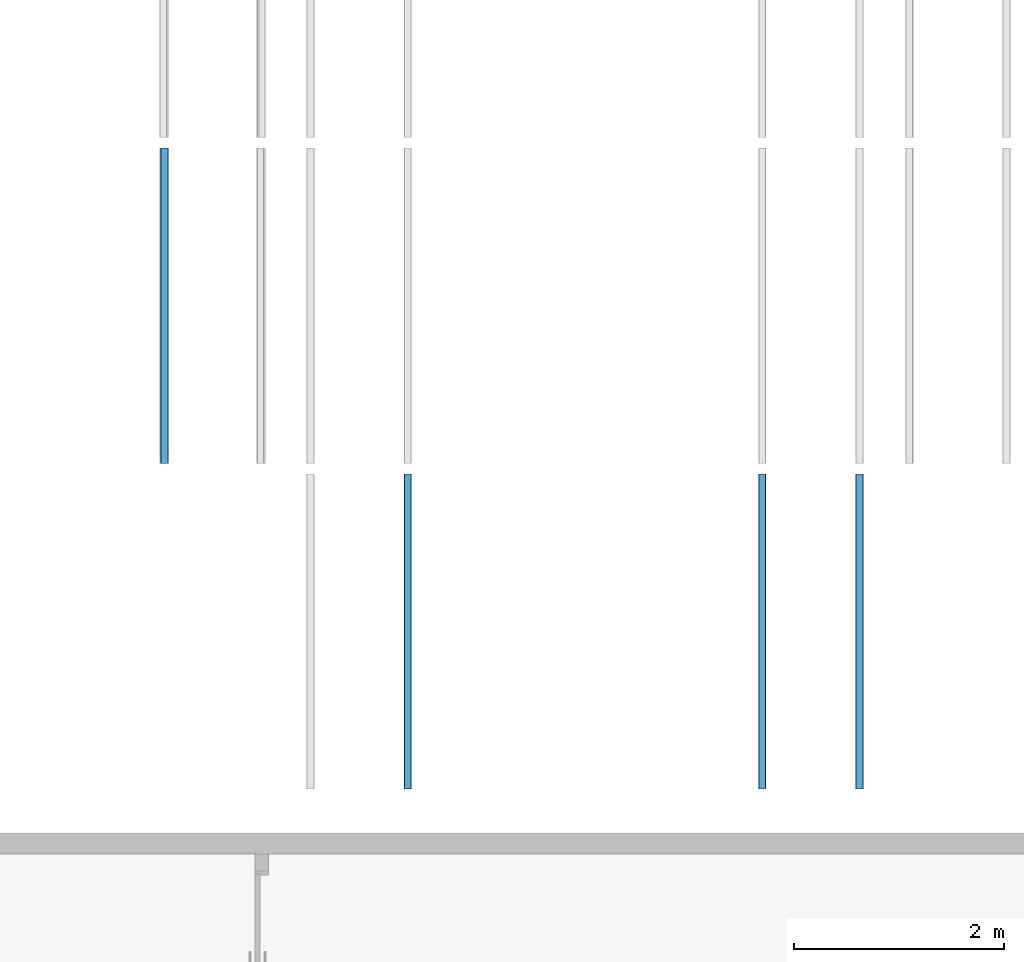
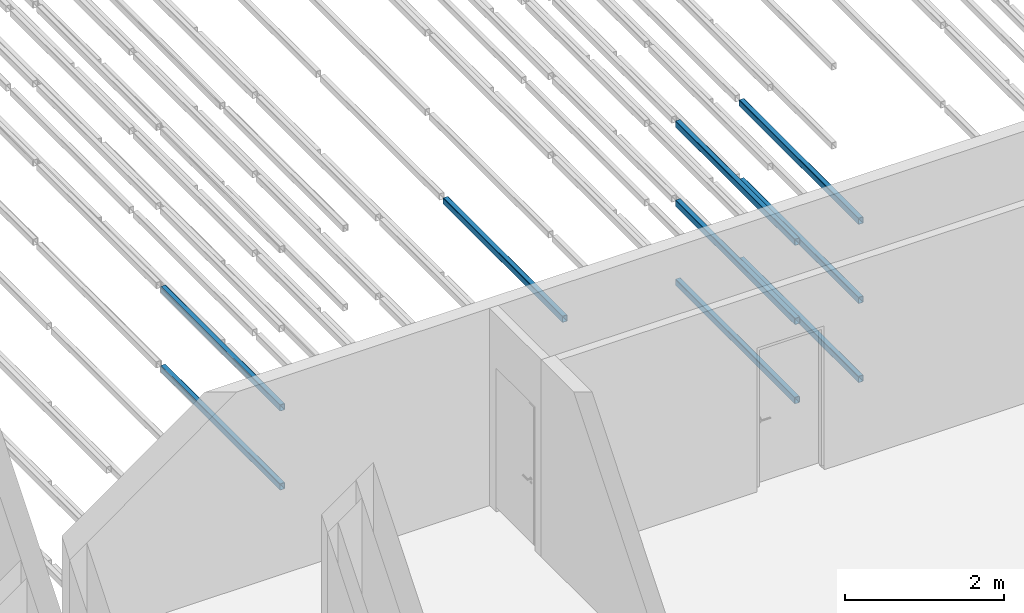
# One storey, part 19 of 290: 9 beams.
"""IFC2X3 building model written with IfcOpenShell, lengths in metres."""

from ifc_helpers import new_model, entity, si_unit, converted_unit, derived_unit, direction, frame, frame_2d, origin, place, context, subcontext, project, spatial, polyline, circle_curve, parameter, trimmed, segment, composite_curve, outline, extrude, material, type_object, element, save


model = new_model("IFC2X3")

# Units and contexts
model_context = context("Model", 3, precision=1e-05, world=origin(), true_north=direction((6.12303176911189e-17, 1.0)))
body_context = subcontext(model_context, "Body", "Model", "MODEL_VIEW")
ifc_project = project(units=[si_unit("LENGTHUNIT", "METRE"), si_unit("AREAUNIT", "SQUARE_METRE"), si_unit("VOLUMEUNIT", "CUBIC_METRE"), converted_unit("PLANEANGLEUNIT", "DEGREE", entity("IfcRatioMeasure", 0.0174532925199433), si_unit("PLANEANGLEUNIT", "RADIAN"), dimensions=[0, 0, 0, 0, 0, 0, 0]), si_unit("MASSUNIT", "GRAM", prefix="KILO"), derived_unit("MASSDENSITYUNIT", [(si_unit("MASSUNIT", "GRAM", prefix="KILO"), 1), (si_unit("LENGTHUNIT", "METRE"), -3)]), derived_unit("MOMENTOFINERTIAUNIT", [(si_unit("LENGTHUNIT", "METRE"), 4)]), si_unit("TIMEUNIT", "SECOND"), si_unit("FREQUENCYUNIT", "HERTZ"), si_unit("THERMODYNAMICTEMPERATUREUNIT", "DEGREE_CELSIUS"), derived_unit("THERMALTRANSMITTANCEUNIT", [(si_unit("MASSUNIT", "GRAM", prefix="KILO"), 1), (si_unit("THERMODYNAMICTEMPERATUREUNIT", "KELVIN"), -1), (si_unit("TIMEUNIT", "SECOND"), -3)]), derived_unit("VOLUMETRICFLOWRATEUNIT", [(si_unit("LENGTHUNIT", "METRE"), 3), (si_unit("TIMEUNIT", "SECOND"), -1)]), si_unit("ELECTRICCURRENTUNIT", "AMPERE"), si_unit("ELECTRICVOLTAGEUNIT", "VOLT"), si_unit("POWERUNIT", "WATT"), si_unit("FORCEUNIT", "NEWTON", prefix="KILO"), si_unit("ILLUMINANCEUNIT", "LUX"), si_unit("LUMINOUSFLUXUNIT", "LUMEN"), si_unit("LUMINOUSINTENSITYUNIT", "CANDELA"), derived_unit("USERDEFINED", [(si_unit("MASSUNIT", "GRAM", prefix="KILO"), -1), (si_unit("LENGTHUNIT", "METRE"), -2), (si_unit("TIMEUNIT", "SECOND"), 3), (si_unit("LUMINOUSFLUXUNIT", "LUMEN"), 1)]), derived_unit("LINEARVELOCITYUNIT", [(si_unit("LENGTHUNIT", "METRE"), 1), (si_unit("TIMEUNIT", "SECOND"), -1)]), si_unit("PRESSUREUNIT", "PASCAL"), derived_unit("USERDEFINED", [(si_unit("LENGTHUNIT", "METRE"), -2), (si_unit("MASSUNIT", "GRAM", prefix="KILO"), 1), (si_unit("TIMEUNIT", "SECOND"), -2)]), derived_unit("LINEARFORCEUNIT", [(si_unit("MASSUNIT", "GRAM", prefix="KILO"), 1), (si_unit("LENGTHUNIT", "METRE"), 1), (si_unit("TIMEUNIT", "SECOND"), -2), (si_unit("LENGTHUNIT", "METRE"), -1)]), derived_unit("PLANARFORCEUNIT", [(si_unit("MASSUNIT", "GRAM", prefix="KILO"), 1), (si_unit("LENGTHUNIT", "METRE"), 1), (si_unit("TIMEUNIT", "SECOND"), -2), (si_unit("LENGTHUNIT", "METRE"), -2)])], contexts=[model_context])

# Site, building, storey
site_placement = place(None, origin())
site = spatial("IfcSite", under=ifc_project, at=site_placement, Name="Default", CompositionType="ELEMENT")
building_placement = place(site_placement, origin())
building = spatial("IfcBuilding", under=site, at=building_placement, CompositionType="ELEMENT")
storey_placement = place(building_placement, frame((0.0, 0.0, 4.0)))
storey = spatial("IfcBuildingStorey", under=building, at=storey_placement, Name="01_OG", CompositionType="ELEMENT", Elevation=4.0)

# Beams
ifc_material = material(Name="Metall - Baustahl S235 blau")
beam_type = type_object("IfcBeamType", Name="RHS Träger (EN 10219-2):RHS 100 x 75 x 5", PredefinedType="NOTDEFINED")
beam_1_placement = place(storey_placement, frame((-196.415111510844, 24.048088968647, 0.0150000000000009), z_axis=(0.0, 0.0, 1.0), x_axis=(0.0, 1.0, 0.0)))
element("IfcBeam", 1, at=beam_1_placement, inside=storey, type_object=beam_type, material=ifc_material, Name="RHS Träger (EN 10219-2):RHS 100 x 75 x 5", ObjectType="RHS Träger (EN 10219-2):RHS 100 x 75 x 5", context=body_context, shape_type="SweptSolid", body=[
    extrude(outline(composite_curve([segment(trimmed(circle_curve(frame_2d((-0.0274999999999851, -0.0400000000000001), x_axis=(1.0, 0.0)), 0.01), [parameter(180.0)], [parameter(270.0)], True, "PARAMETER"), True, "CONTINUOUS"), segment(polyline([(-0.0274999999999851, -0.05), (0.0274999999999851, -0.05)]), True, "CONTINUOUS"), segment(trimmed(circle_curve(frame_2d((0.0274999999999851, -0.0400000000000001), x_axis=(1.0, 0.0)), 0.01), [parameter(270.0)], [parameter(5.08888749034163e-14)], True, "PARAMETER"), True, "CONTINUOUS"), segment(polyline([(0.0375000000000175, -0.0400000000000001), (0.0375000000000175, 0.0400000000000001)]), True, "CONTINUOUS"), segment(trimmed(circle_curve(frame_2d((0.0274999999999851, 0.0400000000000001), x_axis=(1.0, 0.0)), 0.01), [parameter(360.0)], [parameter(89.9999999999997)], True, "PARAMETER"), True, "CONTINUOUS"), segment(polyline([(0.0274999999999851, 0.05), (-0.0274999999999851, 0.05)]), True, "CONTINUOUS"), segment(trimmed(circle_curve(frame_2d((-0.0274999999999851, 0.0400000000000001), x_axis=(1.0, 0.0)), 0.01), [parameter(90.0000000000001)], [parameter(180.0)], True, "PARAMETER"), True, "CONTINUOUS"), segment(polyline([(-0.0374999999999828, 0.0400000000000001), (-0.0374999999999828, -0.0400000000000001)]), True, "CONTINUOUS")], self_intersect=False), holes=[composite_curve([segment(polyline([(0.0274999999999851, -0.0450000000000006), (-0.0274999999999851, -0.0450000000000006)]), True, "CONTINUOUS"), segment(trimmed(circle_curve(frame_2d((-0.0274999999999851, -0.0400000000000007), x_axis=(1.0, 0.0)), 0.005), [parameter(180.0)], [parameter(270.0)], True, "PARAMETER"), False, "CONTINUOUS"), segment(polyline([(-0.0325000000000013, -0.0400000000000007), (-0.0325000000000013, 0.039999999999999)]), True, "CONTINUOUS"), segment(trimmed(circle_curve(frame_2d((-0.0274999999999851, 0.039999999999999), x_axis=(1.0, 0.0)), 0.005), [parameter(90.0000000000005)], [parameter(180.0)], True, "PARAMETER"), False, "CONTINUOUS"), segment(polyline([(-0.0274999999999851, 0.044999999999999), (0.0274999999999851, 0.044999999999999)]), True, "CONTINUOUS"), segment(trimmed(circle_curve(frame_2d((0.0274999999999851, 0.039999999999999), x_axis=(1.0, 0.0)), 0.005), [parameter(0.0)], [parameter(90.0000000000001)], True, "PARAMETER"), False, "CONTINUOUS"), segment(polyline([(0.0325000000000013, 0.039999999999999), (0.0325000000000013, -0.0400000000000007)]), True, "CONTINUOUS"), segment(trimmed(circle_curve(frame_2d((0.0274999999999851, -0.0400000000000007), x_axis=(1.0, 0.0)), 0.005), [parameter(270.0)], [parameter(4.07110999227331e-13)], True, "PARAMETER"), False, "CONTINUOUS")], self_intersect=False)]), frame((0.000100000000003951, 0.0375000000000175, -0.0500000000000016), z_axis=(1.0, 0.0, 0.0), x_axis=(0.0, -1.0, 0.0)), (0.0, 0.0, 1.0), 2.9998),
])
beam_2_placement = place(storey_placement, frame((-196.415111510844, 24.048088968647, 1.23), z_axis=(0.0, 0.0, 1.0), x_axis=(0.0, 1.0, 0.0)))
element("IfcBeam", 2, at=beam_2_placement, inside=storey, type_object=beam_type, material=ifc_material, Name="RHS Träger (EN 10219-2):RHS 100 x 75 x 5", ObjectType="RHS Träger (EN 10219-2):RHS 100 x 75 x 5", context=body_context, shape_type="SweptSolid", body=[
    extrude(outline(composite_curve([segment(trimmed(circle_curve(frame_2d((-0.0274999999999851, -0.0399999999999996), x_axis=(1.0, 0.0)), 0.01), [parameter(180.0)], [parameter(270.0)], True, "PARAMETER"), True, "CONTINUOUS"), segment(polyline([(-0.0274999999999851, -0.0499999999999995), (0.0274999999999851, -0.0499999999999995)]), True, "CONTINUOUS"), segment(trimmed(circle_curve(frame_2d((0.0274999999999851, -0.0399999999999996), x_axis=(1.0, 0.0)), 0.01), [parameter(270.0)], [parameter(5.08888749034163e-14)], True, "PARAMETER"), True, "CONTINUOUS"), segment(polyline([(0.0375000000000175, -0.0399999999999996), (0.0375000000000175, 0.0399999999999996)]), True, "CONTINUOUS"), segment(trimmed(circle_curve(frame_2d((0.0274999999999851, 0.0399999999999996), x_axis=(1.0, 0.0)), 0.01), [parameter(360.0)], [parameter(89.9999999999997)], True, "PARAMETER"), True, "CONTINUOUS"), segment(polyline([(0.0274999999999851, 0.0500000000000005), (-0.0274999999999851, 0.0500000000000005)]), True, "CONTINUOUS"), segment(trimmed(circle_curve(frame_2d((-0.0274999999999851, 0.0399999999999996), x_axis=(1.0, 0.0)), 0.01), [parameter(90.0000000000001)], [parameter(180.0)], True, "PARAMETER"), True, "CONTINUOUS"), segment(polyline([(-0.0374999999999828, 0.0399999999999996), (-0.0374999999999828, -0.0399999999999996)]), True, "CONTINUOUS")], self_intersect=False), holes=[composite_curve([segment(polyline([(0.0274999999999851, -0.0450000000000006), (-0.0274999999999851, -0.0450000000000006)]), True, "CONTINUOUS"), segment(trimmed(circle_curve(frame_2d((-0.0274999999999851, -0.0400000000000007), x_axis=(1.0, 0.0)), 0.005), [parameter(180.0)], [parameter(270.0)], True, "PARAMETER"), False, "CONTINUOUS"), segment(polyline([(-0.0325000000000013, -0.0400000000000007), (-0.0325000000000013, 0.0399999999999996)]), True, "CONTINUOUS"), segment(trimmed(circle_curve(frame_2d((-0.0274999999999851, 0.0399999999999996), x_axis=(1.0, 0.0)), 0.005), [parameter(90.0000000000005)], [parameter(180.0)], True, "PARAMETER"), False, "CONTINUOUS"), segment(polyline([(-0.0274999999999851, 0.0449999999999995), (0.0274999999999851, 0.0449999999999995)]), True, "CONTINUOUS"), segment(trimmed(circle_curve(frame_2d((0.0274999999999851, 0.0399999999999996), x_axis=(1.0, 0.0)), 0.005), [parameter(0.0)], [parameter(90.0000000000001)], True, "PARAMETER"), False, "CONTINUOUS"), segment(polyline([(0.0325000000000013, 0.0399999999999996), (0.0325000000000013, -0.0400000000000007)]), True, "CONTINUOUS"), segment(trimmed(circle_curve(frame_2d((0.0274999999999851, -0.0400000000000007), x_axis=(1.0, 0.0)), 0.005), [parameter(270.0)], [parameter(4.07110999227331e-13)], True, "PARAMETER"), False, "CONTINUOUS")], self_intersect=False)]), frame((0.000100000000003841, 0.0375000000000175, -0.0500000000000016), z_axis=(1.0, 0.0, 0.0), x_axis=(0.0, -1.0, 0.0)), (0.0, 0.0, 1.0), 2.9998),
])
beam_3_placement = place(storey_placement, frame((-196.415111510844, 24.048088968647, 2.445), z_axis=(0.0, 0.0, 1.0), x_axis=(0.0, 1.0, 0.0)))
element("IfcBeam", 3, at=beam_3_placement, inside=storey, type_object=beam_type, material=ifc_material, Name="RHS Träger (EN 10219-2):RHS 100 x 75 x 5", ObjectType="RHS Träger (EN 10219-2):RHS 100 x 75 x 5", context=body_context, shape_type="SweptSolid", body=[
    extrude(outline(composite_curve([segment(trimmed(circle_curve(frame_2d((-0.0274999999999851, -0.0399999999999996), x_axis=(1.0, 0.0)), 0.01), [parameter(180.0)], [parameter(270.0)], True, "PARAMETER"), True, "CONTINUOUS"), segment(polyline([(-0.0274999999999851, -0.0499999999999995), (0.0274999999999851, -0.0499999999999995)]), True, "CONTINUOUS"), segment(trimmed(circle_curve(frame_2d((0.0274999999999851, -0.0399999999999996), x_axis=(1.0, 0.0)), 0.01), [parameter(270.0)], [parameter(5.08888749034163e-14)], True, "PARAMETER"), True, "CONTINUOUS"), segment(polyline([(0.0375000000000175, -0.0399999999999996), (0.0375000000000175, 0.0399999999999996)]), True, "CONTINUOUS"), segment(trimmed(circle_curve(frame_2d((0.0274999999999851, 0.0399999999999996), x_axis=(1.0, 0.0)), 0.01), [parameter(360.0)], [parameter(89.9999999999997)], True, "PARAMETER"), True, "CONTINUOUS"), segment(polyline([(0.0274999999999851, 0.0500000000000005), (-0.0274999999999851, 0.0500000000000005)]), True, "CONTINUOUS"), segment(trimmed(circle_curve(frame_2d((-0.0274999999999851, 0.0399999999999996), x_axis=(1.0, 0.0)), 0.01), [parameter(90.0000000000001)], [parameter(180.0)], True, "PARAMETER"), True, "CONTINUOUS"), segment(polyline([(-0.0374999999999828, 0.0399999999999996), (-0.0374999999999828, -0.0399999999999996)]), True, "CONTINUOUS")], self_intersect=False), holes=[composite_curve([segment(polyline([(0.0274999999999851, -0.0450000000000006), (-0.0274999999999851, -0.0450000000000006)]), True, "CONTINUOUS"), segment(trimmed(circle_curve(frame_2d((-0.0274999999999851, -0.0400000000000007), x_axis=(1.0, 0.0)), 0.005), [parameter(180.0)], [parameter(270.0)], True, "PARAMETER"), False, "CONTINUOUS"), segment(polyline([(-0.0325000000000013, -0.0400000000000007), (-0.0325000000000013, 0.0399999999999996)]), True, "CONTINUOUS"), segment(trimmed(circle_curve(frame_2d((-0.0274999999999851, 0.0399999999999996), x_axis=(1.0, 0.0)), 0.005), [parameter(90.0000000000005)], [parameter(180.0)], True, "PARAMETER"), False, "CONTINUOUS"), segment(polyline([(-0.0274999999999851, 0.0449999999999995), (0.0274999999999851, 0.0449999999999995)]), True, "CONTINUOUS"), segment(trimmed(circle_curve(frame_2d((0.0274999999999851, 0.0399999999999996), x_axis=(1.0, 0.0)), 0.005), [parameter(0.0)], [parameter(90.0000000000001)], True, "PARAMETER"), False, "CONTINUOUS"), segment(polyline([(0.0325000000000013, 0.0399999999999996), (0.0325000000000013, -0.0400000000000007)]), True, "CONTINUOUS"), segment(trimmed(circle_curve(frame_2d((0.0274999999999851, -0.0400000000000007), x_axis=(1.0, 0.0)), 0.005), [parameter(270.0)], [parameter(4.07110999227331e-13)], True, "PARAMETER"), False, "CONTINUOUS")], self_intersect=False)]), frame((0.000100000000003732, 0.0375000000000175, -0.0500000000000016), z_axis=(1.0, 0.0, 0.0), x_axis=(0.0, -1.0, 0.0)), (0.0, 0.0, 1.0), 2.9998),
])
beam_4_placement = place(storey_placement, frame((-195.565111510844, 24.048088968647, 0.0150000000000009), z_axis=(0.0, 0.0, 1.0), x_axis=(0.0, 1.0, 0.0)))
element("IfcBeam", 4, at=beam_4_placement, inside=storey, type_object=beam_type, material=ifc_material, Name="RHS Träger (EN 10219-2):RHS 100 x 75 x 5", ObjectType="RHS Träger (EN 10219-2):RHS 100 x 75 x 5", context=body_context, shape_type="SweptSolid", body=[
    extrude(outline(composite_curve([segment(polyline([(-0.0400000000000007, -0.0374999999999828), (0.0399999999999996, -0.0374999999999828)]), True, "CONTINUOUS"), segment(trimmed(circle_curve(frame_2d((0.0399999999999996, -0.0274999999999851), x_axis=(0.0, 1.0)), 0.01), [parameter(180.0)], [parameter(270.0)], True, "PARAMETER"), True, "CONTINUOUS"), segment(polyline([(0.0499999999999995, -0.0274999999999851), (0.0499999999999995, 0.0274999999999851)]), True, "CONTINUOUS"), segment(trimmed(circle_curve(frame_2d((0.0399999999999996, 0.0274999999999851), x_axis=(0.0, 1.0)), 0.01), [parameter(270.0)], [parameter(4.07110999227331e-13)], True, "PARAMETER"), True, "CONTINUOUS"), segment(polyline([(0.0399999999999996, 0.0375000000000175), (-0.0400000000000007, 0.0375000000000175)]), True, "CONTINUOUS"), segment(trimmed(circle_curve(frame_2d((-0.0400000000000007, 0.0274999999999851), x_axis=(0.0, 1.0)), 0.01), [parameter(360.0)], [parameter(90.0000000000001)], True, "PARAMETER"), True, "CONTINUOUS"), segment(polyline([(-0.0500000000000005, 0.0274999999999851), (-0.0500000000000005, -0.0274999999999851)]), True, "CONTINUOUS"), segment(trimmed(circle_curve(frame_2d((-0.0400000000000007, -0.0274999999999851), x_axis=(0.0, 1.0)), 0.01), [parameter(90.0000000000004)], [parameter(180.0)], True, "PARAMETER"), True, "CONTINUOUS")], self_intersect=False), holes=[composite_curve([segment(trimmed(circle_curve(frame_2d((-0.0400000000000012, 0.0274999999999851), x_axis=(0.0, 1.0)), 0.005), [parameter(360.0)], [parameter(89.9999999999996)], True, "PARAMETER"), False, "CONTINUOUS"), segment(polyline([(-0.0400000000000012, 0.0325000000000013), (0.0399999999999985, 0.0325000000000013)]), True, "CONTINUOUS"), segment(trimmed(circle_curve(frame_2d((0.0399999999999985, 0.0274999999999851), x_axis=(0.0, 1.0)), 0.005), [parameter(270.0)], [parameter(0.0)], True, "PARAMETER"), False, "CONTINUOUS"), segment(polyline([(0.0449999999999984, 0.0274999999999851), (0.0449999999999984, -0.0274999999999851)]), True, "CONTINUOUS"), segment(trimmed(circle_curve(frame_2d((0.0399999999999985, -0.0274999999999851), x_axis=(0.0, 1.0)), 0.005), [parameter(180.0)], [parameter(269.999999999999)], True, "PARAMETER"), False, "CONTINUOUS"), segment(polyline([(0.0399999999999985, -0.0325000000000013), (-0.0400000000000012, -0.0325000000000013)]), True, "CONTINUOUS"), segment(trimmed(circle_curve(frame_2d((-0.0400000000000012, -0.0274999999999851), x_axis=(0.0, 1.0)), 0.005), [parameter(90.0000000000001)], [parameter(180.0)], True, "PARAMETER"), False, "CONTINUOUS"), segment(polyline([(-0.0450000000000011, -0.0274999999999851), (-0.0450000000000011, 0.0274999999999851)]), True, "CONTINUOUS")], self_intersect=False)]), frame((0.000100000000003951, -0.0375000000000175, -0.0500000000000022), z_axis=(1.0, 0.0, 0.0), x_axis=(0.0, 0.0, -1.0)), (0.0, 0.0, 1.0), 2.9998),
])
beam_5_placement = place(storey_placement, frame((-195.565111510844, 24.048088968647, 1.23), z_axis=(0.0, 0.0, 1.0), x_axis=(0.0, 1.0, 0.0)))
element("IfcBeam", 5, at=beam_5_placement, inside=storey, type_object=beam_type, material=ifc_material, Name="RHS Träger (EN 10219-2):RHS 100 x 75 x 5", ObjectType="RHS Träger (EN 10219-2):RHS 100 x 75 x 5", context=body_context, shape_type="SweptSolid", body=[
    extrude(outline(composite_curve([segment(polyline([(-0.0399999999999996, -0.0374999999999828), (0.0399999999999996, -0.0374999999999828)]), True, "CONTINUOUS"), segment(trimmed(circle_curve(frame_2d((0.0399999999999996, -0.0274999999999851), x_axis=(0.0, 1.0)), 0.01), [parameter(180.0)], [parameter(270.0)], True, "PARAMETER"), True, "CONTINUOUS"), segment(polyline([(0.0500000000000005, -0.0274999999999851), (0.0500000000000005, 0.0274999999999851)]), True, "CONTINUOUS"), segment(trimmed(circle_curve(frame_2d((0.0399999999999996, 0.0274999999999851), x_axis=(0.0, 1.0)), 0.01), [parameter(270.0)], [parameter(4.07110999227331e-13)], True, "PARAMETER"), True, "CONTINUOUS"), segment(polyline([(0.0399999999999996, 0.0375000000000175), (-0.0399999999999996, 0.0375000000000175)]), True, "CONTINUOUS"), segment(trimmed(circle_curve(frame_2d((-0.0399999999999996, 0.0274999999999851), x_axis=(0.0, 1.0)), 0.01), [parameter(360.0)], [parameter(90.0000000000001)], True, "PARAMETER"), True, "CONTINUOUS"), segment(polyline([(-0.0499999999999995, 0.0274999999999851), (-0.0499999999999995, -0.0274999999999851)]), True, "CONTINUOUS"), segment(trimmed(circle_curve(frame_2d((-0.0399999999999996, -0.0274999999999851), x_axis=(0.0, 1.0)), 0.01), [parameter(90.0000000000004)], [parameter(180.0)], True, "PARAMETER"), True, "CONTINUOUS")], self_intersect=False), holes=[composite_curve([segment(trimmed(circle_curve(frame_2d((-0.0400000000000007, 0.0274999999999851), x_axis=(0.0, 1.0)), 0.005), [parameter(360.0)], [parameter(89.9999999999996)], True, "PARAMETER"), False, "CONTINUOUS"), segment(polyline([(-0.0400000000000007, 0.0325000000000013), (0.0399999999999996, 0.0325000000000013)]), True, "CONTINUOUS"), segment(trimmed(circle_curve(frame_2d((0.0399999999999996, 0.0274999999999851), x_axis=(0.0, 1.0)), 0.005), [parameter(270.0)], [parameter(0.0)], True, "PARAMETER"), False, "CONTINUOUS"), segment(polyline([(0.0449999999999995, 0.0274999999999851), (0.0449999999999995, -0.0274999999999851)]), True, "CONTINUOUS"), segment(trimmed(circle_curve(frame_2d((0.0399999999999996, -0.0274999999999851), x_axis=(0.0, 1.0)), 0.005), [parameter(180.0)], [parameter(269.999999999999)], True, "PARAMETER"), False, "CONTINUOUS"), segment(polyline([(0.0399999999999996, -0.0325000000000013), (-0.0400000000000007, -0.0325000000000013)]), True, "CONTINUOUS"), segment(trimmed(circle_curve(frame_2d((-0.0400000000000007, -0.0274999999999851), x_axis=(0.0, 1.0)), 0.005), [parameter(90.0000000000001)], [parameter(180.0)], True, "PARAMETER"), False, "CONTINUOUS"), segment(polyline([(-0.0450000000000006, -0.0274999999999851), (-0.0450000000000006, 0.0274999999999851)]), True, "CONTINUOUS")], self_intersect=False)]), frame((0.000100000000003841, -0.0375000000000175, -0.0500000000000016), z_axis=(1.0, 0.0, 0.0), x_axis=(0.0, 0.0, -1.0)), (0.0, 0.0, 1.0), 2.9998),
])
beam_6_placement = place(storey_placement, frame((-195.565111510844, 24.048088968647, 2.445), z_axis=(0.0, 0.0, 1.0), x_axis=(0.0, 1.0, 0.0)))
element("IfcBeam", 6, at=beam_6_placement, inside=storey, type_object=beam_type, material=ifc_material, Name="RHS Träger (EN 10219-2):RHS 100 x 75 x 5", ObjectType="RHS Träger (EN 10219-2):RHS 100 x 75 x 5", context=body_context, shape_type="SweptSolid", body=[
    extrude(outline(composite_curve([segment(polyline([(-0.0399999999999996, -0.0374999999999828), (0.0399999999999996, -0.0374999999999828)]), True, "CONTINUOUS"), segment(trimmed(circle_curve(frame_2d((0.0399999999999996, -0.0274999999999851), x_axis=(0.0, 1.0)), 0.01), [parameter(180.0)], [parameter(270.0)], True, "PARAMETER"), True, "CONTINUOUS"), segment(polyline([(0.0500000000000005, -0.0274999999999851), (0.0500000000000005, 0.0274999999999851)]), True, "CONTINUOUS"), segment(trimmed(circle_curve(frame_2d((0.0399999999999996, 0.0274999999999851), x_axis=(0.0, 1.0)), 0.01), [parameter(270.0)], [parameter(4.07110999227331e-13)], True, "PARAMETER"), True, "CONTINUOUS"), segment(polyline([(0.0399999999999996, 0.0375000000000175), (-0.0399999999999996, 0.0375000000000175)]), True, "CONTINUOUS"), segment(trimmed(circle_curve(frame_2d((-0.0399999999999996, 0.0274999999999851), x_axis=(0.0, 1.0)), 0.01), [parameter(360.0)], [parameter(90.0000000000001)], True, "PARAMETER"), True, "CONTINUOUS"), segment(polyline([(-0.0499999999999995, 0.0274999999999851), (-0.0499999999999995, -0.0274999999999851)]), True, "CONTINUOUS"), segment(trimmed(circle_curve(frame_2d((-0.0399999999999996, -0.0274999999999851), x_axis=(0.0, 1.0)), 0.01), [parameter(90.0000000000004)], [parameter(180.0)], True, "PARAMETER"), True, "CONTINUOUS")], self_intersect=False), holes=[composite_curve([segment(trimmed(circle_curve(frame_2d((-0.0400000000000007, 0.0274999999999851), x_axis=(0.0, 1.0)), 0.005), [parameter(360.0)], [parameter(89.9999999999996)], True, "PARAMETER"), False, "CONTINUOUS"), segment(polyline([(-0.0400000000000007, 0.0325000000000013), (0.0399999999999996, 0.0325000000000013)]), True, "CONTINUOUS"), segment(trimmed(circle_curve(frame_2d((0.0399999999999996, 0.0274999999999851), x_axis=(0.0, 1.0)), 0.005), [parameter(270.0)], [parameter(0.0)], True, "PARAMETER"), False, "CONTINUOUS"), segment(polyline([(0.0449999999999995, 0.0274999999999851), (0.0449999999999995, -0.0274999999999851)]), True, "CONTINUOUS"), segment(trimmed(circle_curve(frame_2d((0.0399999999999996, -0.0274999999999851), x_axis=(0.0, 1.0)), 0.005), [parameter(180.0)], [parameter(269.999999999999)], True, "PARAMETER"), False, "CONTINUOUS"), segment(polyline([(0.0399999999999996, -0.0325000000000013), (-0.0400000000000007, -0.0325000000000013)]), True, "CONTINUOUS"), segment(trimmed(circle_curve(frame_2d((-0.0400000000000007, -0.0274999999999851), x_axis=(0.0, 1.0)), 0.005), [parameter(90.0000000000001)], [parameter(180.0)], True, "PARAMETER"), False, "CONTINUOUS"), segment(polyline([(-0.0450000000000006, -0.0274999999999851), (-0.0450000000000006, 0.0274999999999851)]), True, "CONTINUOUS")], self_intersect=False)]), frame((0.000100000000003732, -0.0375000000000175, -0.0500000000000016), z_axis=(1.0, 0.0, 0.0), x_axis=(0.0, 0.0, -1.0)), (0.0, 0.0, 1.0), 2.9998),
])
beam_7_placement = place(storey_placement, frame((-199.865111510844, 24.048088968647, 2.445), z_axis=(0.0, 0.0, 1.0), x_axis=(0.0, 1.0, 0.0)))
element("IfcBeam", 7, at=beam_7_placement, inside=storey, type_object=beam_type, material=ifc_material, Name="RHS Träger (EN 10219-2):RHS 100 x 75 x 5", ObjectType="RHS Träger (EN 10219-2):RHS 100 x 75 x 5", context=body_context, shape_type="SweptSolid", body=[
    extrude(outline(composite_curve([segment(polyline([(-0.0399999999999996, -0.0374999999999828), (0.0399999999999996, -0.0374999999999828)]), True, "CONTINUOUS"), segment(trimmed(circle_curve(frame_2d((0.0399999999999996, -0.0274999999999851), x_axis=(0.0, 1.0)), 0.01), [parameter(180.0)], [parameter(270.0)], True, "PARAMETER"), True, "CONTINUOUS"), segment(polyline([(0.0500000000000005, -0.0274999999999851), (0.0500000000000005, 0.0274999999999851)]), True, "CONTINUOUS"), segment(trimmed(circle_curve(frame_2d((0.0399999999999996, 0.0274999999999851), x_axis=(0.0, 1.0)), 0.01), [parameter(270.0)], [parameter(4.07110999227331e-13)], True, "PARAMETER"), True, "CONTINUOUS"), segment(polyline([(0.0399999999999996, 0.0375000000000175), (-0.0399999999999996, 0.0375000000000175)]), True, "CONTINUOUS"), segment(trimmed(circle_curve(frame_2d((-0.0399999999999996, 0.0274999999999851), x_axis=(0.0, 1.0)), 0.01), [parameter(360.0)], [parameter(90.0000000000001)], True, "PARAMETER"), True, "CONTINUOUS"), segment(polyline([(-0.0499999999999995, 0.0274999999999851), (-0.0499999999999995, -0.0274999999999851)]), True, "CONTINUOUS"), segment(trimmed(circle_curve(frame_2d((-0.0399999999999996, -0.0274999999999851), x_axis=(0.0, 1.0)), 0.01), [parameter(90.0000000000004)], [parameter(180.0)], True, "PARAMETER"), True, "CONTINUOUS")], self_intersect=False), holes=[composite_curve([segment(trimmed(circle_curve(frame_2d((-0.0400000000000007, 0.0274999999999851), x_axis=(0.0, 1.0)), 0.005), [parameter(360.0)], [parameter(89.9999999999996)], True, "PARAMETER"), False, "CONTINUOUS"), segment(polyline([(-0.0400000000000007, 0.0325000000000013), (0.0399999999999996, 0.0325000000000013)]), True, "CONTINUOUS"), segment(trimmed(circle_curve(frame_2d((0.0399999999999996, 0.0274999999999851), x_axis=(0.0, 1.0)), 0.005), [parameter(270.0)], [parameter(0.0)], True, "PARAMETER"), False, "CONTINUOUS"), segment(polyline([(0.0449999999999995, 0.0274999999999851), (0.0449999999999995, -0.0274999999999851)]), True, "CONTINUOUS"), segment(trimmed(circle_curve(frame_2d((0.0399999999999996, -0.0274999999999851), x_axis=(0.0, 1.0)), 0.005), [parameter(180.0)], [parameter(269.999999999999)], True, "PARAMETER"), False, "CONTINUOUS"), segment(polyline([(0.0399999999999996, -0.0325000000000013), (-0.0400000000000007, -0.0325000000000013)]), True, "CONTINUOUS"), segment(trimmed(circle_curve(frame_2d((-0.0400000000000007, -0.0274999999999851), x_axis=(0.0, 1.0)), 0.005), [parameter(90.0000000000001)], [parameter(180.0)], True, "PARAMETER"), False, "CONTINUOUS"), segment(polyline([(-0.0450000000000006, -0.0274999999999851), (-0.0450000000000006, 0.0274999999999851)]), True, "CONTINUOUS")], self_intersect=False)]), frame((9.99999999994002e-05, -0.0375000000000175, -0.0500000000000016), z_axis=(1.0, 0.0, 0.0), x_axis=(0.0, 0.0, -1.0)), (0.0, 0.0, 1.0), 2.9998),
])
beam_8_placement = place(storey_placement, frame((-202.105111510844, 27.148088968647, -1.2), z_axis=(0.0, 0.0, 1.0), x_axis=(0.0, 1.0, 0.0)))
element("IfcBeam", 8, at=beam_8_placement, inside=storey, type_object=beam_type, material=ifc_material, Name="RHS Träger (EN 10219-2):RHS 100 x 75 x 5", ObjectType="RHS Träger (EN 10219-2):RHS 100 x 75 x 5", context=body_context, shape_type="SweptSolid", body=[
    extrude(outline(composite_curve([segment(trimmed(circle_curve(frame_2d((-0.0274999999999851, -0.0400000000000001), x_axis=(1.0, 0.0)), 0.01), [parameter(180.0)], [parameter(270.0)], True, "PARAMETER"), True, "CONTINUOUS"), segment(polyline([(-0.0274999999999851, -0.05), (0.0274999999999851, -0.05)]), True, "CONTINUOUS"), segment(trimmed(circle_curve(frame_2d((0.0274999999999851, -0.0400000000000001), x_axis=(1.0, 0.0)), 0.01), [parameter(270.0)], [parameter(5.08888749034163e-14)], True, "PARAMETER"), True, "CONTINUOUS"), segment(polyline([(0.0375000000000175, -0.0400000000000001), (0.0375000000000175, 0.0400000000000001)]), True, "CONTINUOUS"), segment(trimmed(circle_curve(frame_2d((0.0274999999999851, 0.0400000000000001), x_axis=(1.0, 0.0)), 0.01), [parameter(360.0)], [parameter(89.9999999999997)], True, "PARAMETER"), True, "CONTINUOUS"), segment(polyline([(0.0274999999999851, 0.05), (-0.0274999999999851, 0.05)]), True, "CONTINUOUS"), segment(trimmed(circle_curve(frame_2d((-0.0274999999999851, 0.0400000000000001), x_axis=(1.0, 0.0)), 0.01), [parameter(90.0000000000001)], [parameter(180.0)], True, "PARAMETER"), True, "CONTINUOUS"), segment(polyline([(-0.0374999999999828, 0.0400000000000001), (-0.0374999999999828, -0.0400000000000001)]), True, "CONTINUOUS")], self_intersect=False), holes=[composite_curve([segment(polyline([(0.0274999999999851, -0.0450000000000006), (-0.0274999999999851, -0.0450000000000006)]), True, "CONTINUOUS"), segment(trimmed(circle_curve(frame_2d((-0.0274999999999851, -0.0400000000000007), x_axis=(1.0, 0.0)), 0.005), [parameter(180.0)], [parameter(270.0)], True, "PARAMETER"), False, "CONTINUOUS"), segment(polyline([(-0.0325000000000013, -0.0400000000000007), (-0.0325000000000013, 0.039999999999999)]), True, "CONTINUOUS"), segment(trimmed(circle_curve(frame_2d((-0.0274999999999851, 0.039999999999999), x_axis=(1.0, 0.0)), 0.005), [parameter(90.0000000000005)], [parameter(180.0)], True, "PARAMETER"), False, "CONTINUOUS"), segment(polyline([(-0.0274999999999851, 0.044999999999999), (0.0274999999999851, 0.044999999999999)]), True, "CONTINUOUS"), segment(trimmed(circle_curve(frame_2d((0.0274999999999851, 0.039999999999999), x_axis=(1.0, 0.0)), 0.005), [parameter(0.0)], [parameter(90.0000000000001)], True, "PARAMETER"), False, "CONTINUOUS"), segment(polyline([(0.0325000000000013, 0.039999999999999), (0.0325000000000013, -0.0400000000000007)]), True, "CONTINUOUS"), segment(trimmed(circle_curve(frame_2d((0.0274999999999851, -0.0400000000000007), x_axis=(1.0, 0.0)), 0.005), [parameter(270.0)], [parameter(4.07110999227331e-13)], True, "PARAMETER"), False, "CONTINUOUS")], self_intersect=False)]), frame((0.000100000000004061, 0.0375000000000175, -0.0500000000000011), z_axis=(1.0, 0.0, 0.0), x_axis=(0.0, -1.0, 0.0)), (0.0, 0.0, 1.0), 2.9998),
])
beam_9_placement = place(storey_placement, frame((-202.105111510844, 27.148088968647, 0.0150000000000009), z_axis=(0.0, 0.0, 1.0), x_axis=(0.0, 1.0, 0.0)))
element("IfcBeam", 9, at=beam_9_placement, inside=storey, type_object=beam_type, material=ifc_material, Name="RHS Träger (EN 10219-2):RHS 100 x 75 x 5", ObjectType="RHS Träger (EN 10219-2):RHS 100 x 75 x 5", context=body_context, shape_type="SweptSolid", body=[
    extrude(outline(composite_curve([segment(trimmed(circle_curve(frame_2d((-0.0274999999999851, -0.0400000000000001), x_axis=(1.0, 0.0)), 0.01), [parameter(180.0)], [parameter(270.0)], True, "PARAMETER"), True, "CONTINUOUS"), segment(polyline([(-0.0274999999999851, -0.05), (0.0274999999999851, -0.05)]), True, "CONTINUOUS"), segment(trimmed(circle_curve(frame_2d((0.0274999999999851, -0.0400000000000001), x_axis=(1.0, 0.0)), 0.01), [parameter(270.0)], [parameter(5.08888749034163e-14)], True, "PARAMETER"), True, "CONTINUOUS"), segment(polyline([(0.0375000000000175, -0.0400000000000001), (0.0375000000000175, 0.0400000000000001)]), True, "CONTINUOUS"), segment(trimmed(circle_curve(frame_2d((0.0274999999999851, 0.0400000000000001), x_axis=(1.0, 0.0)), 0.01), [parameter(360.0)], [parameter(89.9999999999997)], True, "PARAMETER"), True, "CONTINUOUS"), segment(polyline([(0.0274999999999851, 0.05), (-0.0274999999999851, 0.05)]), True, "CONTINUOUS"), segment(trimmed(circle_curve(frame_2d((-0.0274999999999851, 0.0400000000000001), x_axis=(1.0, 0.0)), 0.01), [parameter(90.0000000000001)], [parameter(180.0)], True, "PARAMETER"), True, "CONTINUOUS"), segment(polyline([(-0.0374999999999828, 0.0400000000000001), (-0.0374999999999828, -0.0400000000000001)]), True, "CONTINUOUS")], self_intersect=False), holes=[composite_curve([segment(polyline([(0.0274999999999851, -0.0450000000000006), (-0.0274999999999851, -0.0450000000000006)]), True, "CONTINUOUS"), segment(trimmed(circle_curve(frame_2d((-0.0274999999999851, -0.0400000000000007), x_axis=(1.0, 0.0)), 0.005), [parameter(180.0)], [parameter(270.0)], True, "PARAMETER"), False, "CONTINUOUS"), segment(polyline([(-0.0325000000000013, -0.0400000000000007), (-0.0325000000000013, 0.039999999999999)]), True, "CONTINUOUS"), segment(trimmed(circle_curve(frame_2d((-0.0274999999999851, 0.039999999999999), x_axis=(1.0, 0.0)), 0.005), [parameter(90.0000000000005)], [parameter(180.0)], True, "PARAMETER"), False, "CONTINUOUS"), segment(polyline([(-0.0274999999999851, 0.044999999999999), (0.0274999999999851, 0.044999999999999)]), True, "CONTINUOUS"), segment(trimmed(circle_curve(frame_2d((0.0274999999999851, 0.039999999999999), x_axis=(1.0, 0.0)), 0.005), [parameter(0.0)], [parameter(90.0000000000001)], True, "PARAMETER"), False, "CONTINUOUS"), segment(polyline([(0.0325000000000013, 0.039999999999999), (0.0325000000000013, -0.0400000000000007)]), True, "CONTINUOUS"), segment(trimmed(circle_curve(frame_2d((0.0274999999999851, -0.0400000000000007), x_axis=(1.0, 0.0)), 0.005), [parameter(270.0)], [parameter(4.07110999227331e-13)], True, "PARAMETER"), False, "CONTINUOUS")], self_intersect=False)]), frame((0.000100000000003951, 0.0375000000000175, -0.0500000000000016), z_axis=(1.0, 0.0, 0.0), x_axis=(0.0, -1.0, 0.0)), (0.0, 0.0, 1.0), 2.9998),
])

save(model, "model.ifc")
